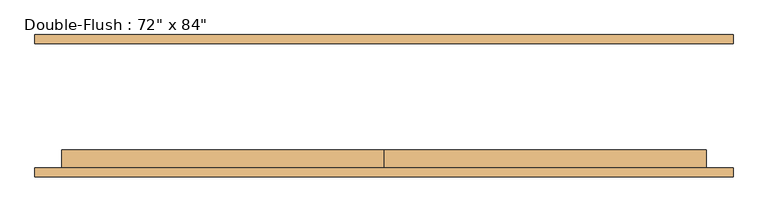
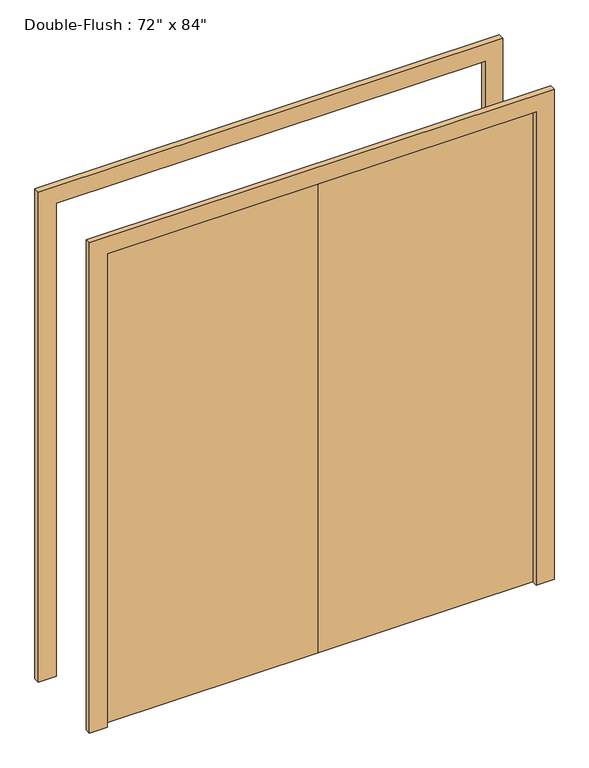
"""IFC4 building model written with IfcOpenShell, lengths in millimetres: door geometry."""

from ifc_helpers import new_model, si_unit, frame, origin, origin_with_axes, place, context, project, spatial, polyline, outline, extrude, source, transform, mapped, element, save


def door_c5474cef(model_context):
    return source(origin(), model_context, "Body", "SweptSolid", [
        extrude(outline(polyline([(0.0, -176.2125), (0.0, -125.4125), (914.4, -125.4125), (914.4, -176.2125), (0.0, -176.2125)])), origin_with_axes(), (0.0, 0.0, 1.0), 2133.6),
        extrude(outline(polyline([(-914.4, -176.2125), (-914.4, -125.4125), (0.0, -125.4125), (0.0, -176.2125), (-914.4, -176.2125)])), origin_with_axes(), (0.0, 0.0, 1.0), 2133.6),
        extrude(outline(polyline([(2133.6, -914.4), (2133.6, 914.4), (0.0, 914.4), (0.0, 990.6), (2209.8, 990.6), (2209.8, -990.6), (0.0, -990.6), (0.0, -914.4), (2133.6, -914.4)])), frame((0.0, 176.2125, 0.0), z_axis=(0.0, 1.0, 0.0), x_axis=(0.0, 0.0, 1.0)), (0.0, 0.0, 1.0), 25.4),
        extrude(outline(polyline([(2133.6, -914.4), (2133.6, 914.4), (0.0, 914.4), (0.0, 990.6), (2209.8, 990.6), (2209.8, -990.6), (0.0, -990.6), (0.0, -914.4), (2133.6, -914.4)])), frame((0.0, -201.6125, 0.0), z_axis=(0.0, 1.0, 0.0), x_axis=(0.0, 0.0, 1.0)), (0.0, 0.0, 1.0), 25.4),
    ])


if __name__ == "__main__":
    model = new_model("IFC4")
    model_context = context("Model", 3, world=origin())
    ifc_project = project(units=[si_unit("LENGTHUNIT", "METRE", prefix="MILLI")], contexts=[model_context])
    site = spatial("IfcSite", under=ifc_project)
    building = spatial("IfcBuilding", under=site)
    placement = place(None, origin())
    door_shape = door_c5474cef(model_context)
    element("IfcDoor", 1, ObjectType="Double-Flush : 72\" x 84\"", at=placement, inside=building, context=model_context, shape_type="MappedRepresentation", body=[
        mapped(door_shape, transform((0.0, 0.0, 0.0), x_axis=(1.0, 0.0, 0.0), y_axis=(0.0, 1.0, 0.0), z_axis=(0.0, 0.0, 1.0))),
    ])
    save(model, "model.ifc")
